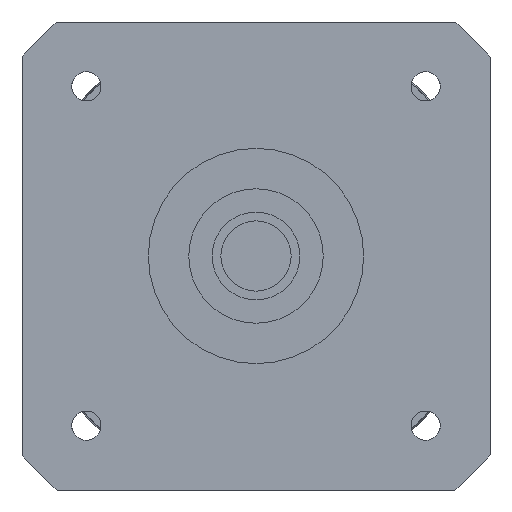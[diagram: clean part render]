
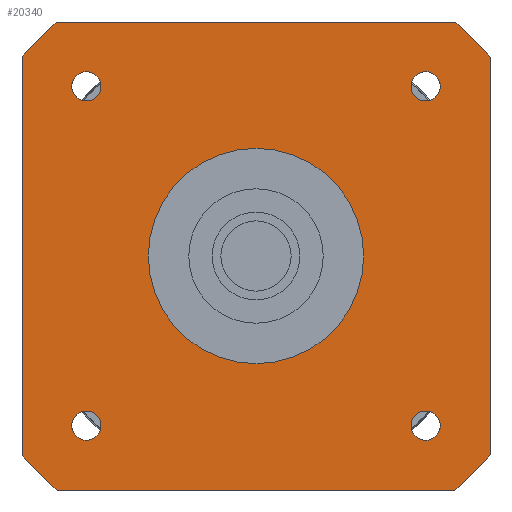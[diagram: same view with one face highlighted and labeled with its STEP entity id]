
A CAD part, left-side view. The second image highlights one B-rep face of the part: STEP entity #20340.
In plain terms, the highlighted planar face has unit normal (-1, 0, 0) as drawn and (0, 0, -1) by its records, which use the part's own axes.
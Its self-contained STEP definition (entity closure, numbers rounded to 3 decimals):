
#13790=CARTESIAN_POINT('',(-34.004,-40.,-44.));
#13800=VERTEX_POINT('',#13790);
#13950=CARTESIAN_POINT('',(34.004,-40.,-44.));
#13960=VERTEX_POINT('',#13950);
#13990=CARTESIAN_POINT('',(-40.,-40.,-44.));
#14000=DIRECTION('',(1.,0.,0.));
#14010=VECTOR('',#14000,1000.);
#14020=LINE('',#13990,#14010);
#14030=EDGE_CURVE('',#13800,#13960,#14020,.T.);
#18350=CARTESIAN_POINT('',(28.998,31.498,-44.));
#18360=VERTEX_POINT('',#18350);
#18720=CARTESIAN_POINT('',(28.998,26.498,-44.));
#18730=VERTEX_POINT('',#18720);
#18760=CARTESIAN_POINT('',(28.998,28.998,-44.));
#18770=DIRECTION('',(0.,0.,-1.));
#18780=DIRECTION('',(1.,0.,0.));
#18790=AXIS2_PLACEMENT_3D('',#18760,#18770,#18780);
#18800=CIRCLE('',#18790,2.5);
#18810=CARTESIAN_POINT('',(31.498,28.998,-44.));
#18820=VERTEX_POINT('',#18810);
#18830=EDGE_CURVE('',#18820,#18730,#18800,.T.);
#18850=EDGE_CURVE('',#18360,#18820,#18800,.T.);
#18900=CARTESIAN_POINT('',(40.,40.,-44.));
#18910=DIRECTION('',(0.,0.,1.));
#18920=DIRECTION('',(0.,1.,0.));
#18930=AXIS2_PLACEMENT_3D('',#18900,#18910,#18920);
#18940=PLANE('',#18930);
#18950=ORIENTED_EDGE('',*,*,#18830,.F.);
#18960=EDGE_CURVE('',#18730,#18360,#18800,.T.);
#18970=ORIENTED_EDGE('',*,*,#18960,.F.);
#18980=ORIENTED_EDGE('',*,*,#18850,.F.);
#18990=EDGE_LOOP('',(#18980,#18970,#18950));
#19000=FACE_BOUND('',#18990,.T.);
#19010=CARTESIAN_POINT('',(-28.998,28.998,-44.));
#19020=DIRECTION('',(0.,0.,-1.));
#19030=DIRECTION('',(1.,0.,0.));
#19040=AXIS2_PLACEMENT_3D('',#19010,#19020,#19030);
#19050=CIRCLE('',#19040,2.5);
#19060=CARTESIAN_POINT('',(-26.498,28.998,-44.));
#19070=VERTEX_POINT('',#19060);
#19080=CARTESIAN_POINT('',(-28.998,26.498,-44.));
#19090=VERTEX_POINT('',#19080);
#19100=EDGE_CURVE('',#19070,#19090,#19050,.T.);
#19110=ORIENTED_EDGE('',*,*,#19100,.F.);
#19120=CARTESIAN_POINT('',(-28.998,31.498,-44.));
#19130=VERTEX_POINT('',#19120);
#19140=EDGE_CURVE('',#19090,#19130,#19050,.T.);
#19150=ORIENTED_EDGE('',*,*,#19140,.F.);
#19160=EDGE_CURVE('',#19130,#19070,#19050,.T.);
#19170=ORIENTED_EDGE('',*,*,#19160,.F.);
#19180=EDGE_LOOP('',(#19170,#19150,#19110));
#19190=FACE_BOUND('',#19180,.T.);
#19200=CARTESIAN_POINT('',(0.,0.,-44.));
#19210=DIRECTION('',(0.,0.,1.));
#19220=DIRECTION('',(0.,-1.,0.));
#19230=AXIS2_PLACEMENT_3D('',#19200,#19210,#19220);
#19240=CIRCLE('',#19230,18.4);
#19250=CARTESIAN_POINT('',(0.,-18.4,-44.));
#19260=VERTEX_POINT('',#19250);
#19270=CARTESIAN_POINT('',(0.,18.4,-44.));
#19280=VERTEX_POINT('',#19270);
#19290=EDGE_CURVE('',#19260,#19280,#19240,.T.);
#19300=ORIENTED_EDGE('',*,*,#19290,.T.);
#19310=EDGE_CURVE('',#19280,#19260,#19240,.T.);
#19320=ORIENTED_EDGE('',*,*,#19310,.T.);
#19330=EDGE_LOOP('',(#19320,#19300));
#19340=FACE_BOUND('',#19330,.T.);
#19350=CARTESIAN_POINT('',(-28.998,-28.998,-44.));
#19360=DIRECTION('',(0.,0.,-1.));
#19370=DIRECTION('',(1.,0.,0.));
#19380=AXIS2_PLACEMENT_3D('',#19350,#19360,#19370);
#19390=CIRCLE('',#19380,2.5);
#19400=CARTESIAN_POINT('',(-26.498,-28.998,-44.));
#19410=VERTEX_POINT('',#19400);
#19420=CARTESIAN_POINT('',(-28.998,-31.498,-44.));
#19430=VERTEX_POINT('',#19420);
#19440=EDGE_CURVE('',#19410,#19430,#19390,.T.);
#19450=ORIENTED_EDGE('',*,*,#19440,.F.);
#19460=CARTESIAN_POINT('',(-28.998,-26.498,-44.));
#19470=VERTEX_POINT('',#19460);
#19480=EDGE_CURVE('',#19430,#19470,#19390,.T.);
#19490=ORIENTED_EDGE('',*,*,#19480,.F.);
#19500=EDGE_CURVE('',#19470,#19410,#19390,.T.);
#19510=ORIENTED_EDGE('',*,*,#19500,.F.);
#19520=EDGE_LOOP('',(#19510,#19490,#19450));
#19530=FACE_BOUND('',#19520,.T.);
#19540=CARTESIAN_POINT('',(28.998,-28.998,-44.));
#19550=DIRECTION('',(0.,0.,-1.));
#19560=DIRECTION('',(1.,0.,0.));
#19570=AXIS2_PLACEMENT_3D('',#19540,#19550,#19560);
#19580=CIRCLE('',#19570,2.5);
#19590=CARTESIAN_POINT('',(31.498,-28.998,-44.));
#19600=VERTEX_POINT('',#19590);
#19610=CARTESIAN_POINT('',(28.998,-31.498,-44.));
#19620=VERTEX_POINT('',#19610);
#19630=EDGE_CURVE('',#19600,#19620,#19580,.T.);
#19640=ORIENTED_EDGE('',*,*,#19630,.F.);
#19650=CARTESIAN_POINT('',(28.998,-26.498,-44.));
#19660=VERTEX_POINT('',#19650);
#19670=EDGE_CURVE('',#19620,#19660,#19580,.T.);
#19680=ORIENTED_EDGE('',*,*,#19670,.F.);
#19690=EDGE_CURVE('',#19660,#19600,#19580,.T.);
#19700=ORIENTED_EDGE('',*,*,#19690,.F.);
#19710=EDGE_LOOP('',(#19700,#19680,#19640));
#19720=FACE_BOUND('',#19710,.T.);
#19730=CARTESIAN_POINT('',(0.,0.,
-44.));
#19740=DIRECTION('',(0.,0.,1.));
#19750=DIRECTION('',(1.,0.,0.));
#19760=AXIS2_PLACEMENT_3D('',#19730,#19740,#19750);
#19770=CIRCLE('',#19760,52.5);
#19780=CARTESIAN_POINT('',(-34.004,40.,-44.));
#19790=VERTEX_POINT('',#19780);
#19800=CARTESIAN_POINT('',(-40.,34.004,-44.));
#19810=VERTEX_POINT('',#19800);
#19820=EDGE_CURVE('',#19790,#19810,#19770,.T.);
#19830=ORIENTED_EDGE('',*,*,#19820,.F.);
#19840=CARTESIAN_POINT('',(-40.,40.,-44.));
#19850=DIRECTION('',(0.,-1.,0.));
#19860=VECTOR('',#19850,1000.);
#19870=LINE('',#19840,#19860);
#19880=CARTESIAN_POINT('',(-40.,-34.004,-44.));
#19890=VERTEX_POINT('',#19880);
#19900=EDGE_CURVE('',#19810,#19890,#19870,.T.);
#19910=ORIENTED_EDGE('',*,*,#19900,.F.);
#19920=CARTESIAN_POINT('',(0.,0.,
-44.));
#19930=DIRECTION('',(0.,0.,1.));
#19940=DIRECTION('',(1.,0.,0.));
#19950=AXIS2_PLACEMENT_3D('',#19920,#19930,#19940);
#19960=CIRCLE('',#19950,52.5);
#19970=EDGE_CURVE('',#19890,#13800,#19960,.T.);
#19980=ORIENTED_EDGE('',*,*,#19970,.F.);
#19990=ORIENTED_EDGE('',*,*,#14030,.F.);
#20000=CARTESIAN_POINT('',(0.,0.,
-44.));
#20010=DIRECTION('',(0.,0.,1.));
#20020=DIRECTION('',(1.,0.,0.));
#20030=AXIS2_PLACEMENT_3D('',#20000,#20010,#20020);
#20040=CIRCLE('',#20030,52.5);
#20050=CARTESIAN_POINT('',(40.,-34.004,-44.));
#20060=VERTEX_POINT('',#20050);
#20070=EDGE_CURVE('',#13960,#20060,#20040,.T.);
#20080=ORIENTED_EDGE('',*,*,#20070,.F.);
#20090=CARTESIAN_POINT('',(40.,-40.,-44.));
#20100=DIRECTION('',(0.,1.,0.));
#20110=VECTOR('',#20100,1000.);
#20120=LINE('',#20090,#20110);
#20130=CARTESIAN_POINT('',(40.,34.004,-44.));
#20140=VERTEX_POINT('',#20130);
#20150=EDGE_CURVE('',#20060,#20140,#20120,.T.);
#20160=ORIENTED_EDGE('',*,*,#20150,.F.);
#20170=CARTESIAN_POINT('',(0.,0.,
-44.));
#20180=DIRECTION('',(0.,0.,1.));
#20190=DIRECTION('',(1.,0.,0.));
#20200=AXIS2_PLACEMENT_3D('',#20170,#20180,#20190);
#20210=CIRCLE('',#20200,52.5);
#20220=CARTESIAN_POINT('',(34.004,40.,-44.));
#20230=VERTEX_POINT('',#20220);
#20240=EDGE_CURVE('',#20140,#20230,#20210,.T.);
#20250=ORIENTED_EDGE('',*,*,#20240,.F.);
#20260=CARTESIAN_POINT('',(40.,40.,-44.));
#20270=DIRECTION('',(-1.,0.,0.));
#20280=VECTOR('',#20270,1000.);
#20290=LINE('',#20260,#20280);
#20300=EDGE_CURVE('',#20230,#19790,#20290,.T.);
#20310=ORIENTED_EDGE('',*,*,#20300,.F.);
#20320=EDGE_LOOP('',(#20310,#20250,#20160,#20080,#19990,#19980,#19910,
#19830));
#20330=FACE_OUTER_BOUND('',#20320,.T.);
#20340=ADVANCED_FACE('',(#19000,#19190,#19340,#19530,#19720,#20330),
#18940,.F.);
